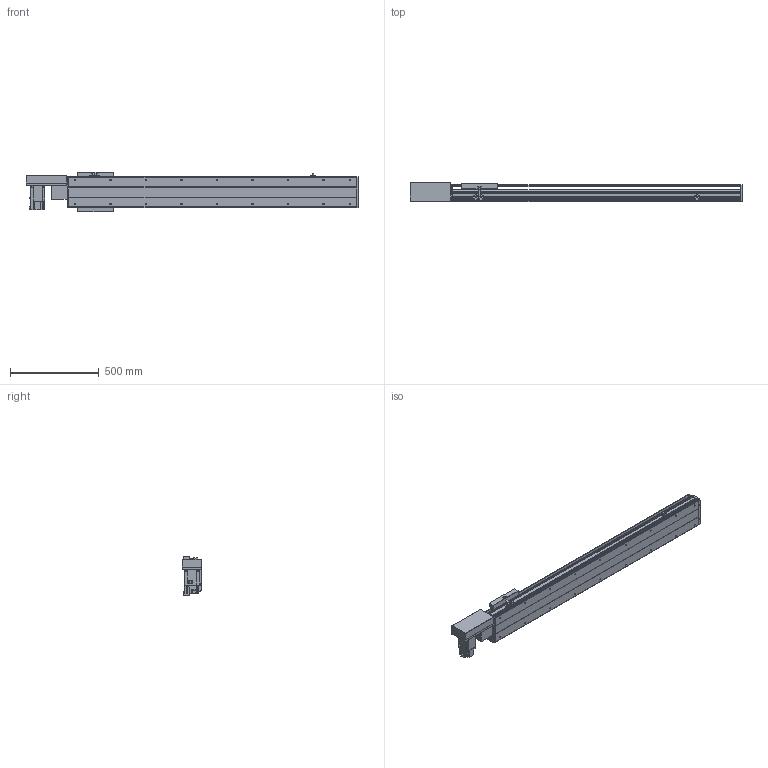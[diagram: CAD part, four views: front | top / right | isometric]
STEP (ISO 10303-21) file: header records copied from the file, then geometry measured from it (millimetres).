
FILE_DESCRIPTION(/* description */ ('STEP AP214'),/* implementation_level */ '2;1');
FILE_NAME(/* name */ 'PBS200-P40-S1250-R-T75-C1-N(0)',/* time_stamp */ '2022-06-11T08:06:04+02:00',/* author */ ('License CC BY-ND 4.0'),/* organization */ ('CADENAS'),/* preprocessor_version */ 'ST-DEVELOPER v18.102',/* originating_system */ 'PARTsolutions',/* authorisation */ ' ');
FILE_SCHEMA (('AUTOMOTIVE_DESIGN {1 0 10303 214 3 1 1}'));
Length unit declared in the file: millimetre
Products named in the file (7): PBS200-P40-S1250-R-T75-C1-N(0); PBS200_sensor; PBS200_plant; PBS200_sliser; T75-p1; PBS200T-R_motors; PBS200-S1250()_body
Assembly tree (8 placements, depth 2):
  PBS200-P40-S1250-R-T75-C1-N(0)
    PBS200_sensor  x3
    PBS200_plant
    PBS200_sliser
    T75-p1
    PBS200T-R_motors
    PBS200-S1250()_body
Bounding box: 1872 x 109 x 221 mm (x, y, z)
Volume: 12798510.5 mm3; surface area: 2065612.7 mm2
Topology: 8 solids, 8 shells, 926 faces, 2384 edges, 1554 vertices
Faces by surface type: plane 576, cylinder 300, cone 50
Full cylindrical faces by diameter (mm): 2.459 x6, 3.242 x4, 4.5 x6, 4.917 x4, 5 x6, 6 x7, 6.6 x8, 6.647 x22, 8 x6, 10 x4, 12 x8, 38 x2, 40 x1, 70 x1
Entity records: 24701 total; most frequent: DIRECTION 4351, CARTESIAN_POINT 4210, ORIENTED_EDGE 3994, EDGE_CURVE 1997, AXIS2_PLACEMENT_3D 1519, VERTEX_POINT 1378, LINE 1313, VECTOR 1313
